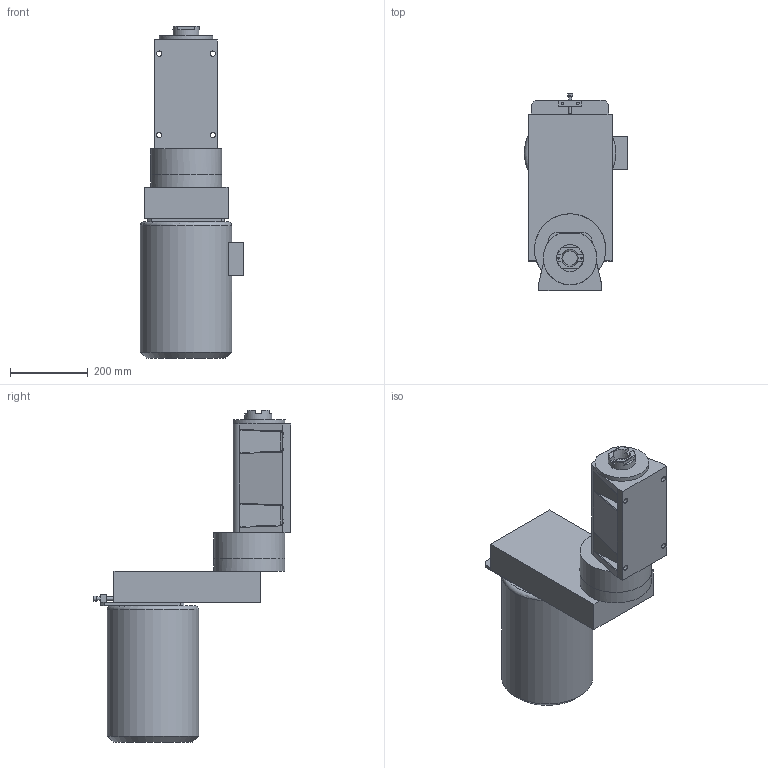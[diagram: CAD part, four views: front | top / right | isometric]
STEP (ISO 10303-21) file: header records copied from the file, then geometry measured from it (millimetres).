
FILE_DESCRIPTION((''),'2;1');
FILE_NAME('C:\VaultWork\Zeichnungen\Maßblätter\Maßblatt BF4G\BF4G Übersetzung 1 zu 2,5 ins langsame\B4653-2-1 Maßblatt BF4G übersetzung 1 zu 2,5 ins langsame.stp','2010-07-12T09:25:00',('Test'),(''),'Autodesk Inventor 2008','Autodesk Inventor 2008','');
FILE_SCHEMA(('AUTOMOTIVE_DESIGN { 1 0 10303 214 1 1 1 1 }'));
Length unit declared in the file: millimetre
Products named in the file (1): B4653-2-1 Maßblatt BF4G übersetzung 1 zu 2,5 ins langsame
Bounding box: 265.5 x 507.31 x 854 mm (x, y, z)
Volume: 30359175.4 mm3; surface area: 833294.3 mm2
Topology: 1 solids, 1 shells, 155 faces, 390 edges, 245 vertices
Faces by surface type: plane 86, bspline 33, cylinder 26, cone 8, torus 2
Full cylindrical faces by diameter (mm): 8 x2, 13 x1, 69 x1, 183 x2, 235 x1
Entity records: 5230 total; most frequent: CARTESIAN_POINT 1577, ORIENTED_EDGE 700, DIRECTION 691, EDGE_CURVE 350, AXIS2_PLACEMENT_3D 244, VERTEX_POINT 231, VECTOR 203, LINE 203
